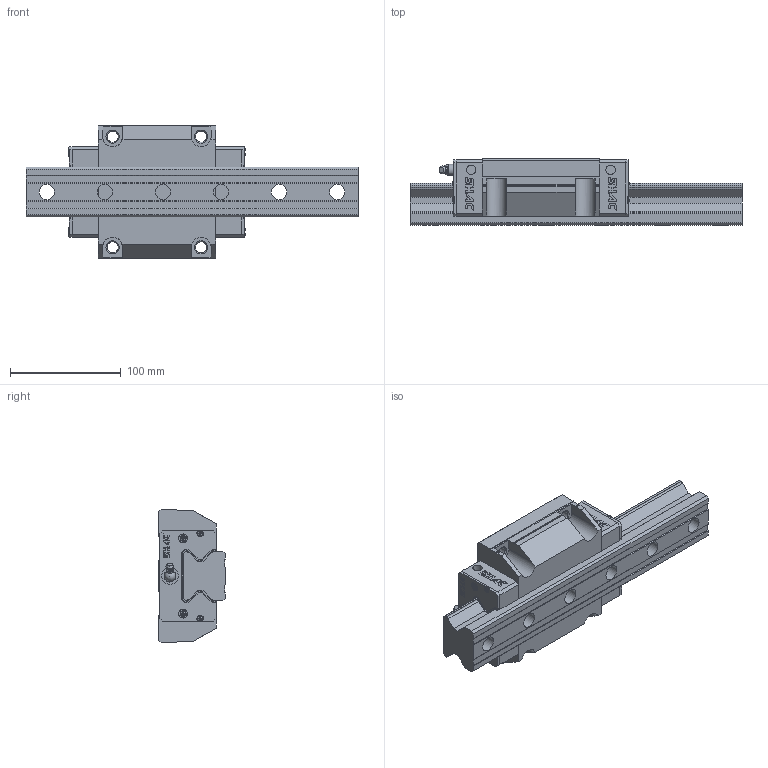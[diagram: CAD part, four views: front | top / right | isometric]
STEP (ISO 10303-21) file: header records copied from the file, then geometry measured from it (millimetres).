
FILE_DESCRIPTION( ( 'STEP AP214' ), '1' );
FILE_NAME( 'F:/品牌/SHAC 台湾鼎翰传动科技有限公司/3D滑块/GRW45CC1R300Z0CRC-18.75_18.75_1_1__.stp', '2025-04-21T22:53:10', ( 'License CC BY-ND 4.0' ), ( 'CADENAS' ), ' ', 'PARTsolutions', ' ' );
FILE_SCHEMA( ( 'AUTOMOTIVE_DESIGN { 1 0 10303 214 1 1 1 1 }' ) );
Length unit declared in the file: millimetre
Products named in the file (8): GRW45CC1R300Z0CRC-18.75/18.75(1_1_); _GR45R300-18.75/18.75(1)_RAIL; _GRW45CC_slider; _GRW45_C; _GRW45_P; _GR45_SCREW; _GH45_BOLT; _GH45-_G
Assembly tree (16 placements, depth 2):
  GRW45CC1R300Z0CRC-18.75/18.75(1_1_)
    _GR45R300-18.75/18.75(1)_RAIL
    _GRW45CC_slider
    _GRW45_C  x2
    _GRW45_P  x2
    _GR45_SCREW  x8
    _GH45_BOLT
    _GH45-_G
Bounding box: 300 x 60 x 120 mm (x, y, z)
Volume: 1005895.2 mm3; surface area: 171327.8 mm2
Topology: 16 solids, 16 shells, 917 faces, 2450 edges, 1615 vertices
Faces by surface type: plane 732, cylinder 136, cone 30, sphere 9, torus 9, bspline 1
Full cylindrical faces by diameter (mm): 3.3 x4, 4.4 x4, 4.5 x1, 5.3 x8, 8 x4, 8.5 x4, 8.8 x2, 10 x2, 10.106 x6, 10.5 x2, 10.6 x2, 14 x6, 15 x2, 20 x6
Entity records: 20795 total; most frequent: CARTESIAN_POINT 3038, ORIENTED_EDGE 2720, DIRECTION 2674, EDGE_CURVE 1360, LINE 1088, VECTOR 1088, VERTEX_POINT 929, AXIS2_PLACEMENT_3D 793
